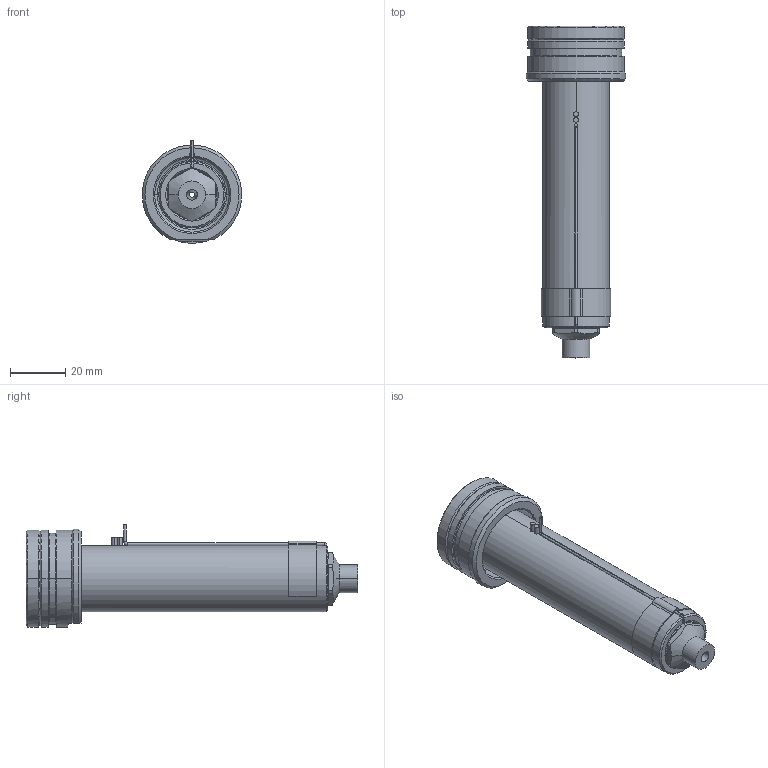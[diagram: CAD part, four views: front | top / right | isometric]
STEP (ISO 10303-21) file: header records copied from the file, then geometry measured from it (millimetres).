
FILE_DESCRIPTION((''),'2;1');
FILE_NAME('EO06_SG_SG_100_SW','2024-02-19T12:16:17',('sundharh'),(''),'CREO PARAMETRIC BY PTC INC, 2023154','CREO PARAMETRIC BY PTC INC, 2023154','');
FILE_SCHEMA(('CONFIG_CONTROL_DESIGN'));
Length unit declared in the file: millimetre
Products named in the file (1): EO06_SG_SG_100_SW
Bounding box: 35.93 x 120 x 37 mm (x, y, z)
Volume: 55872.1 mm3; surface area: 16430 mm2
Topology: 2 solids, 2 shells, 168 faces, 429 edges, 259 vertices
Faces by surface type: cylinder 68, plane 40, cone 30, torus 21, bspline 6, sphere 3
Entity records: 5760 total; most frequent: CARTESIAN_POINT 1658, DIRECTION 900, ORIENTED_EDGE 838, EDGE_CURVE 419, AXIS2_PLACEMENT_3D 375, VERTEX_POINT 259, CIRCLE 213, EDGE_LOOP 182
